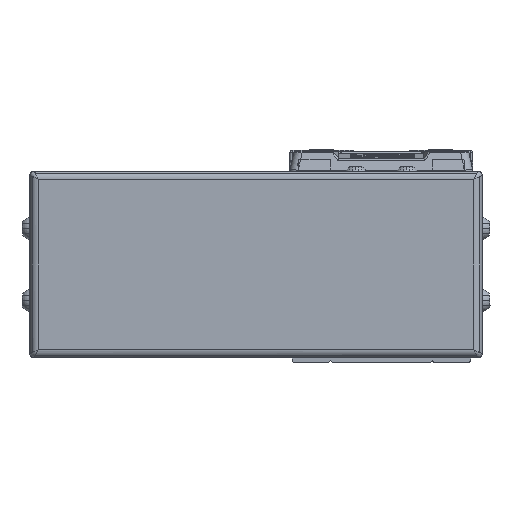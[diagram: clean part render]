
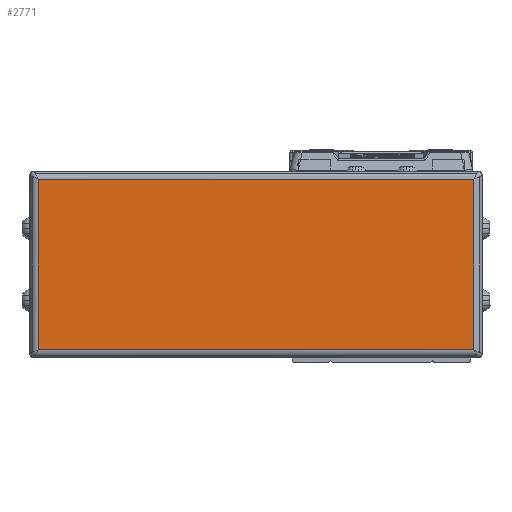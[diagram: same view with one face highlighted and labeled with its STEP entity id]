
A CAD part, left-side view. The second image highlights one B-rep face of the part: STEP entity #2771.
In plain terms, the highlighted planar face has unit normal (-1, 0, 0).
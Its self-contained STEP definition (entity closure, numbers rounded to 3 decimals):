
#2771=ADVANCED_FACE('',(#6756),#6757,.F.);
#6756=FACE_OUTER_BOUND('',#12995,.T.);
#6757=PLANE('',#12996);
#12995=EDGE_LOOP('',(#23059,#23060,#23061,#23062));
#12996=AXIS2_PLACEMENT_3D('',#23063,#23064,#23065);
#23059=ORIENTED_EDGE('',*,*,#37050,.T.);
#23060=ORIENTED_EDGE('',*,*,#36221,.T.);
#23061=ORIENTED_EDGE('',*,*,#37051,.T.);
#23062=ORIENTED_EDGE('',*,*,#37052,.T.);
#23063=CARTESIAN_POINT('',(-48.,29.5,-4.));
#23064=DIRECTION('',(1.0,0.,0.));
#23065=DIRECTION('',(0.,0.,1.0));
#36221=EDGE_CURVE('',#43411,#43409,#43412,.T.);
#37050=EDGE_CURVE('',#44780,#43411,#44781,.T.);
#37051=EDGE_CURVE('',#43409,#44782,#44783,.T.);
#37052=EDGE_CURVE('',#44782,#44780,#44784,.T.);
#43409=VERTEX_POINT('',#53475);
#43411=VERTEX_POINT('',#53477);
#43412=LINE('',#53478,#53479);
#44780=VERTEX_POINT('',#55664);
#44781=LINE('',#55665,#55666);
#44782=VERTEX_POINT('',#55667);
#44783=LINE('',#55668,#55669);
#44784=LINE('',#55670,#55671);
#53475=CARTESIAN_POINT('',(-48.,80.7,-24.));
#53477=CARTESIAN_POINT('',(-48.,80.7,16.));
#53478=CARTESIAN_POINT('',(-48.,80.7,-4.));
#53479=VECTOR('',#64766,10.0);
#55664=CARTESIAN_POINT('',(-48.,-21.7,16.));
#55665=CARTESIAN_POINT('',(-48.,29.5,16.));
#55666=VECTOR('',#65918,10.0);
#55667=CARTESIAN_POINT('',(-48.,-21.7,-24.));
#55668=CARTESIAN_POINT('',(-48.,29.5,-24.));
#55669=VECTOR('',#65919,10.0);
#55670=CARTESIAN_POINT('',(-48.,-21.7,-4.));
#55671=VECTOR('',#65920,10.0);
#64766=DIRECTION('',(0.,0.,-1.0));
#65918=DIRECTION('',(0.,1.0,0.));
#65919=DIRECTION('',(0.,-1.0,0.));
#65920=DIRECTION('',(0.,0.,1.0));
